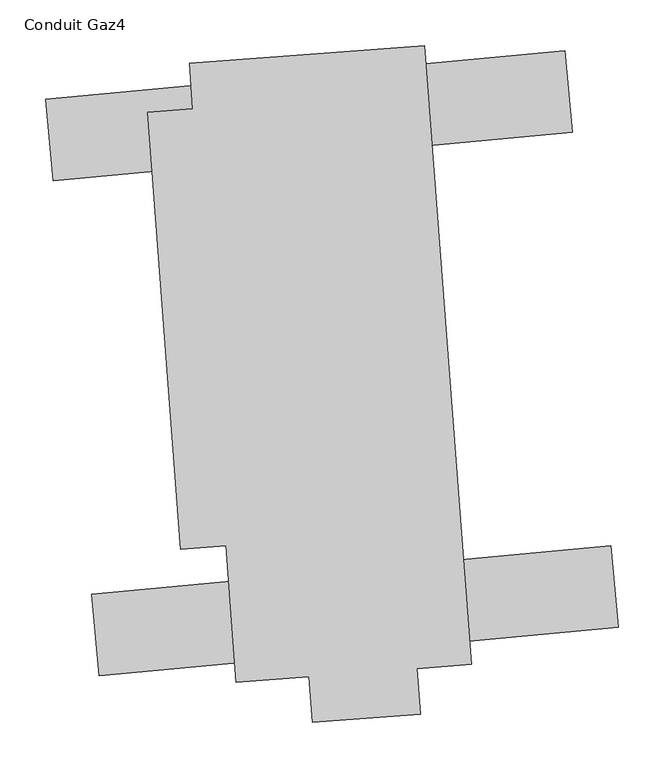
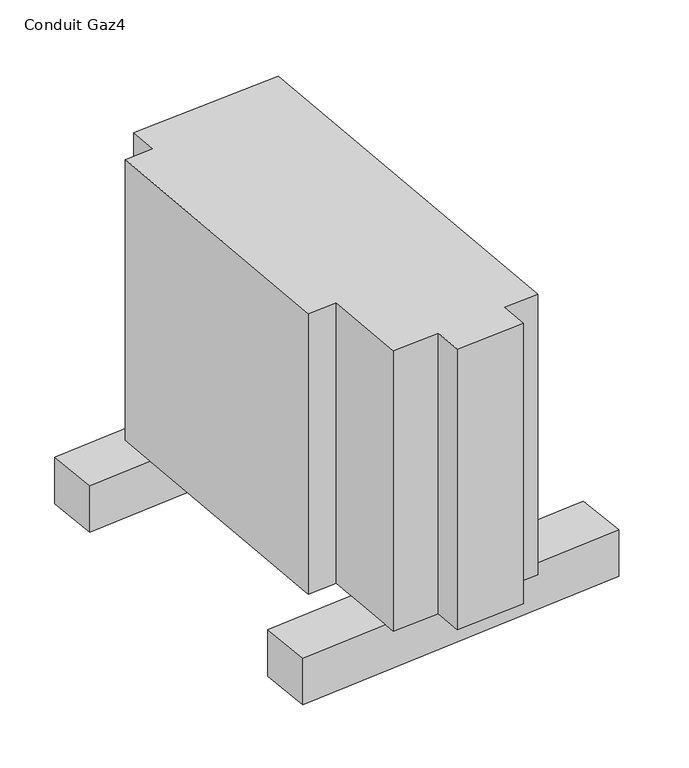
"""IFC4 building model written with IfcOpenShell, lengths in millimetres: proxy geometry, Conduit Gaz4 : Conduit Gaz."""

from ifc_helpers import new_model, si_unit, frame, origin, place, context, project, spatial, polyline, outline, extrude, source, transform, mapped, element, save


def conduit_gaz4_21e6472d(model_context):
    return source(origin(), model_context, "Body", "SweptSolid", [
        extrude(outline(polyline([(-21593.0604269, -7959.9434558), (-21023.8158903, -7906.8847447), (-21015.4592802, -7996.5392899), (-21584.7038169, -8049.5980009), (-21593.0604269, -7959.9434558)])), frame((0.0, 0.0, 10853.3082742), z_axis=(0.0, 0.0, 1.0), x_axis=(1.0, 0.0, 0.0)), (0.0, 0.0, 1.0), 83.8898589),
        extrude(outline(polyline([(-21643.6253773, -7417.4534257), (-21074.3808406, -7364.3947147), (-21066.0242306, -7454.0492599), (-21635.2687673, -7507.1079709), (-21643.6253773, -7417.4534257)])), frame((0.0, 0.0, 10853.3082742), z_axis=(0.0, 0.0, 1.0), x_axis=(1.0, 0.0, 0.0)), (0.0, 0.0, 1.0), 83.8898589),
        extrude(outline(polyline([(-21531.9804493, -7432.0993146), (-21482.1228395, -7428.3285397), (-21485.8936144, -7378.4709299), (-21228.0394767, -7358.9691943), (-21176.7455717, -8037.1829679), (-21236.5747035, -8041.7078978), (-21232.8039286, -8091.5655076), (-21351.0567588, -8100.5090733), (-21354.8275337, -8050.6514635), (-21434.5997094, -8056.6847034), (-21445.9120343, -7907.1118739), (-21495.7696441, -7910.8826489), (-21531.9804493, -7432.0993146)])), frame((0.0, 0.0, 10937.5316006), z_axis=(0.0, 0.0, 1.0), x_axis=(1.0, 0.0, 0.0)), (0.0, 0.0, 1.0), 506.2766736),
    ])


if __name__ == "__main__":
    model = new_model("IFC4")
    model_context = context("Model", 3, world=origin())
    ifc_project = project(units=[si_unit("LENGTHUNIT", "METRE", prefix="MILLI")], contexts=[model_context])
    site = spatial("IfcSite", under=ifc_project)
    building = spatial("IfcBuilding", under=site)
    placement = place(None, origin())
    conduit_gaz4_shape = conduit_gaz4_21e6472d(model_context)
    element("IfcBuildingElementProxy", 1, Name="Conduit Gaz4 : Conduit Gaz", ObjectType="Conduit Gaz4 : Conduit Gaz", at=placement, inside=building, context=model_context, shape_type="MappedRepresentation", body=[
        mapped(conduit_gaz4_shape, transform((0.0, 0.0, 0.0), x_axis=(1.0, 0.0, 0.0), y_axis=(0.0, 1.0, 0.0), z_axis=(0.0, 0.0, 1.0))),
    ])
    save(model, "model.ifc")
